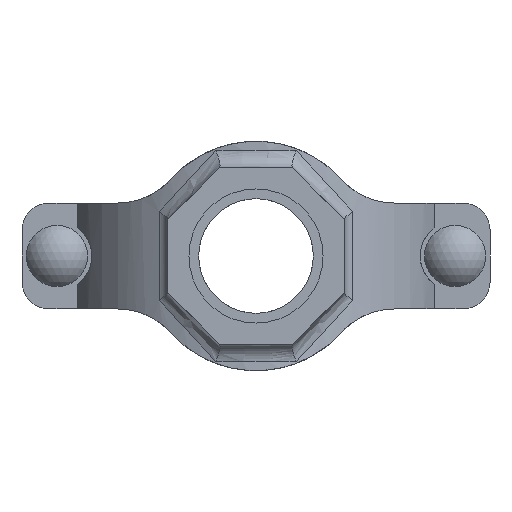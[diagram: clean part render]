
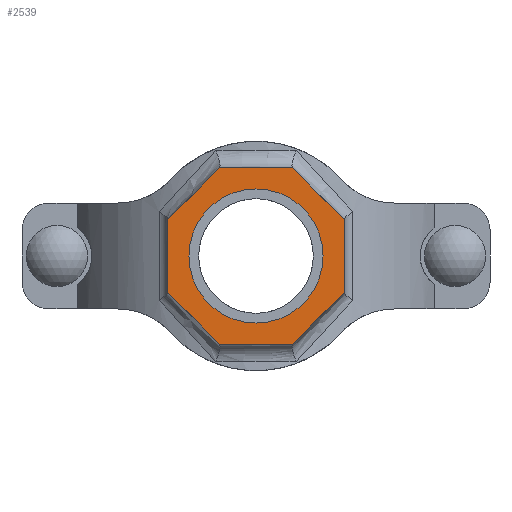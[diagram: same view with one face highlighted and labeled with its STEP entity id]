
A CAD part, front view. The second image highlights one B-rep face of the part: STEP entity #2539.
In plain terms, the highlighted planar face has unit normal (0, -1, 0) as drawn and (0, 1, 0) by its records, which use the part's own axes.
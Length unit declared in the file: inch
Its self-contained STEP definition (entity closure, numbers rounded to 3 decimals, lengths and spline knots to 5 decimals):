
#186=FACE_BOUND('',#459,.T.);
#307=FACE_OUTER_BOUND('',#458,.T.);
#458=EDGE_LOOP('',(#2138,#2139,#2140,#2141,#2142,#2143,#2144,#2145));
#459=EDGE_LOOP('',(#2146));
#594=LINE('',#4785,#780);
#597=LINE('',#4790,#783);
#599=LINE('',#4794,#785);
#601=LINE('',#4798,#787);
#641=LINE('',#5231,#827);
#643=LINE('',#5235,#829);
#645=LINE('',#5239,#831);
#647=LINE('',#5242,#833);
#780=VECTOR('',#3278,0.3937);
#783=VECTOR('',#3283,0.3937);
#785=VECTOR('',#3287,0.3937);
#787=VECTOR('',#3291,0.3937);
#827=VECTOR('',#3427,0.3937);
#829=VECTOR('',#3431,0.3937);
#831=VECTOR('',#3435,0.3937);
#833=VECTOR('',#3439,0.3937);
#919=CIRCLE('',#2802,0.95);
#1097=VERTEX_POINT('',#4782);
#1098=VERTEX_POINT('',#4784);
#1099=VERTEX_POINT('',#4788);
#1100=VERTEX_POINT('',#4792);
#1101=VERTEX_POINT('',#4796);
#1136=VERTEX_POINT('',#5076);
#1160=VERTEX_POINT('',#5230);
#1161=VERTEX_POINT('',#5234);
#1162=VERTEX_POINT('',#5238);
#1408=EDGE_CURVE('',#1098,#1097,#594,.T.);
#1411=EDGE_CURVE('',#1097,#1099,#597,.T.);
#1413=EDGE_CURVE('',#1099,#1100,#599,.T.);
#1415=EDGE_CURVE('',#1100,#1101,#601,.T.);
#1461=EDGE_CURVE('',#1136,#1136,#919,.T.);
#1495=EDGE_CURVE('',#1160,#1098,#641,.T.);
#1497=EDGE_CURVE('',#1161,#1160,#643,.T.);
#1499=EDGE_CURVE('',#1162,#1161,#645,.T.);
#1501=EDGE_CURVE('',#1101,#1162,#647,.T.);
#2138=ORIENTED_EDGE('',*,*,#1501,.T.);
#2139=ORIENTED_EDGE('',*,*,#1499,.T.);
#2140=ORIENTED_EDGE('',*,*,#1497,.T.);
#2141=ORIENTED_EDGE('',*,*,#1495,.T.);
#2142=ORIENTED_EDGE('',*,*,#1408,.T.);
#2143=ORIENTED_EDGE('',*,*,#1411,.T.);
#2144=ORIENTED_EDGE('',*,*,#1413,.T.);
#2145=ORIENTED_EDGE('',*,*,#1415,.T.);
#2146=ORIENTED_EDGE('',*,*,#1461,.T.);
#2280=PLANE('',#2825);
#2539=ADVANCED_FACE('',(#307,#186),#2280,.T.);
#2802=AXIS2_PLACEMENT_3D('',#5077,#3369,#3370);
#2825=AXIS2_PLACEMENT_3D('',#5243,#3440,#3441);
#3278=DIRECTION('',(0.,0.,1.));
#3283=DIRECTION('',(0.707,0.,0.707));
#3287=DIRECTION('',(1.,0.,0.));
#3291=DIRECTION('',(0.707,0.,-0.707));
#3369=DIRECTION('center_axis',(0.,-1.,0.));
#3370=DIRECTION('ref_axis',(-1.,0.,0.));
#3427=DIRECTION('',(-0.707,0.,0.707));
#3431=DIRECTION('',(-1.,0.,0.));
#3435=DIRECTION('',(-0.707,0.,-0.707));
#3439=DIRECTION('',(0.,0.,-1.));
#3440=DIRECTION('center_axis',(0.,1.,0.));
#3441=DIRECTION('ref_axis',(0.,0.,1.));
#4782=CARTESIAN_POINT('',(-1.25,4.,0.51777));
#4784=CARTESIAN_POINT('',(-1.25,4.,-0.51777));
#4785=CARTESIAN_POINT('',(-1.25,4.,0.51777));
#4788=CARTESIAN_POINT('',(-0.51777,4.,1.25));
#4790=CARTESIAN_POINT('',(-0.51777,4.,1.25));
#4792=CARTESIAN_POINT('',(0.51777,4.,1.25));
#4794=CARTESIAN_POINT('',(0.51777,4.,1.25));
#4796=CARTESIAN_POINT('',(1.25,4.,0.51777));
#4798=CARTESIAN_POINT('',(1.25,4.,0.51777));
#5076=CARTESIAN_POINT('',(0.95,4.,0.));
#5077=CARTESIAN_POINT('Origin',(0.,4.,0.));
#5230=CARTESIAN_POINT('',(-0.51777,4.,-1.25));
#5231=CARTESIAN_POINT('',(-1.25,4.,-0.51777));
#5234=CARTESIAN_POINT('',(0.51777,4.,-1.25));
#5235=CARTESIAN_POINT('',(-0.51777,4.,-1.25));
#5238=CARTESIAN_POINT('',(1.25,4.,-0.51777));
#5239=CARTESIAN_POINT('',(0.51777,4.,-1.25));
#5242=CARTESIAN_POINT('',(1.25,4.,-0.51777));
#5243=CARTESIAN_POINT('Origin',(0.,4.,0.));
